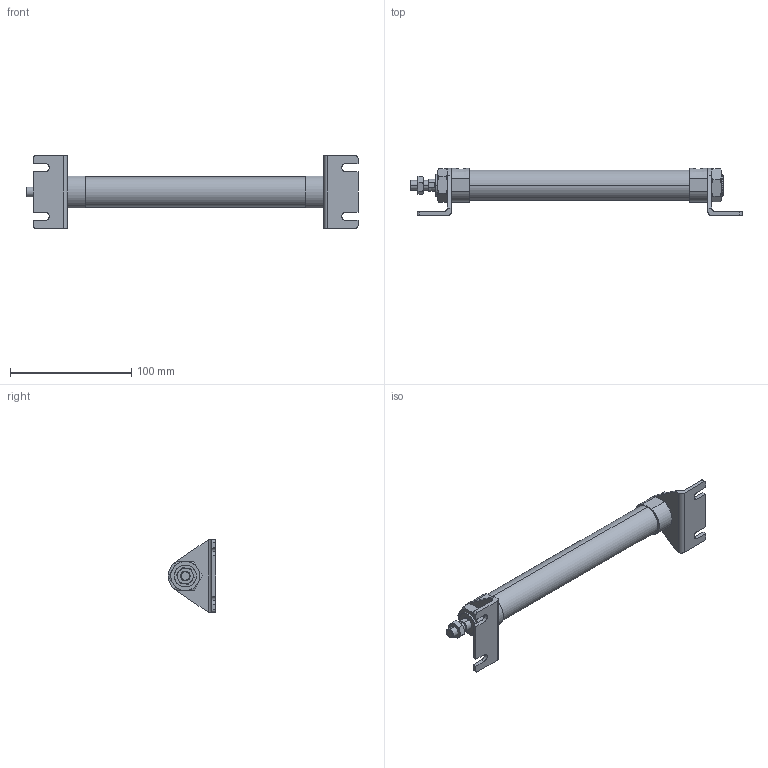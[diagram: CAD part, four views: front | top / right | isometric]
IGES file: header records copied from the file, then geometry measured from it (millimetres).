
Start section: SolidWorks IGES file using analytic representation for surfaces
Global section: file name: C:\Users\Toshiba\Desktop\J#2-20-150-L.IGS; native system: SolidWorks 2014; preprocessor: SolidWorks 2014; author: Toshiba; date: 160310.085139; units: millimetre
Bounding box: 274.2 x 39 x 60 mm (x, y, z)
Surface area: 37064.5 mm2 (no closed solid volume)
Topology: 0 solids, 0 shells, 168 faces, 2672 edges, 2672 vertices
Faces by surface type: bspline 110, revolution 58
